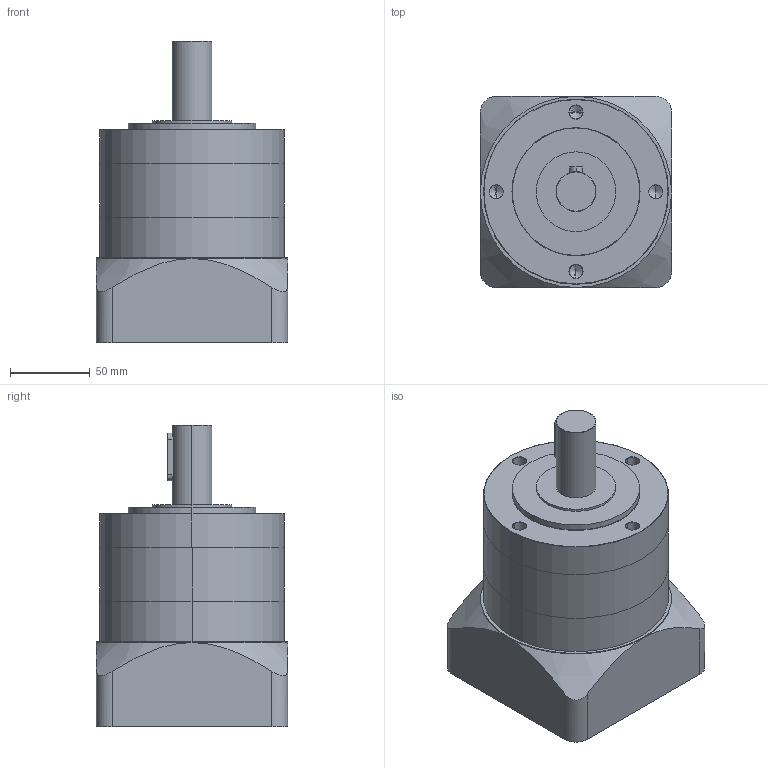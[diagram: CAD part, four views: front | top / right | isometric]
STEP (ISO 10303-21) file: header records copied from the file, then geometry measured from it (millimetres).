
FILE_DESCRIPTION (( 'STEP AP203' ), '1' );
FILE_NAME ('N120-L1.STEP', '2018-05-24T01:49:44', ( 'user' ), ( '' ), 'SwSTEP 2.0', 'SolidWorks 2014', '' );
FILE_SCHEMA (( 'CONFIG_CONTROL_DESIGN' ));
Length unit declared in the file: millimetre
Products named in the file (1): N120-L1
Bounding box: 120 x 120 x 189.5 mm (x, y, z)
Volume: 1321278.2 mm3; surface area: 159356 mm2
Topology: 3 solids, 3 shells, 99 faces, 218 edges, 134 vertices
Faces by surface type: cylinder 48, cone 26, plane 25
Entity records: 3093 total; most frequent: CARTESIAN_POINT 808, DIRECTION 500, ORIENTED_EDGE 420, EDGE_CURVE 210, AXIS2_PLACEMENT_3D 208, VERTEX_POINT 134, EDGE_LOOP 118, CIRCLE 108
